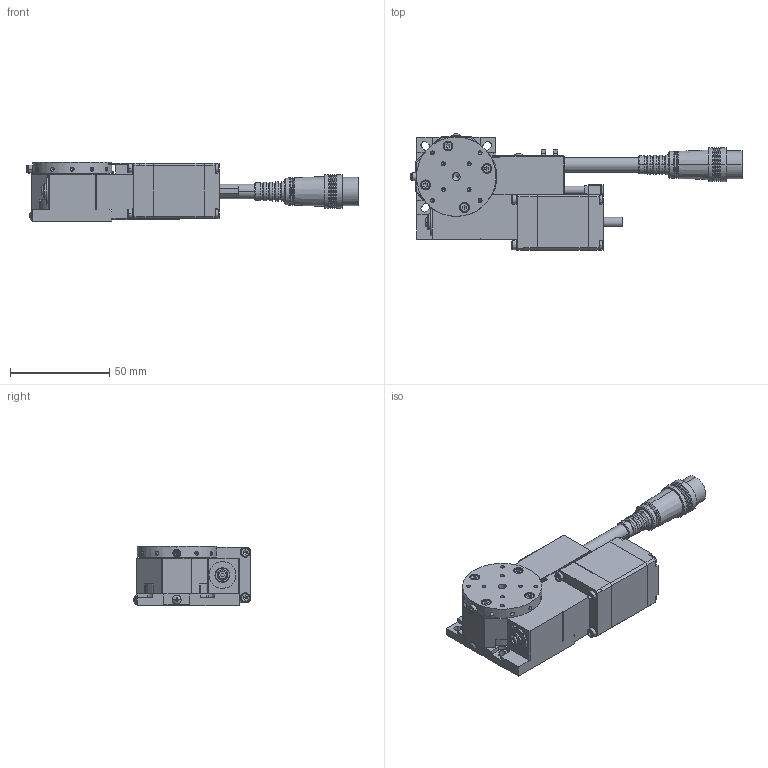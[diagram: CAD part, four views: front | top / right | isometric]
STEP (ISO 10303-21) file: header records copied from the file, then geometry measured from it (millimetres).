
FILE_DESCRIPTION (( 'STEP AP203' ), '1' );
FILE_NAME ('RA04A-W01.STEP', '2019-02-20T05:26:23', ( '' ), ( '' ), 'SwSTEP 2.0', 'SolidWorks 2018', '' );
FILE_SCHEMA (( 'CONFIG_CONTROL_DESIGN' ));
Length unit declared in the file: millimetre
Products named in the file (6): table; RA04A-W01; base; base-Part-1; base-Part-2; base-Part-3
Assembly tree (5 placements, depth 3):
  RA04A-W01
    base
      base-Part-1
      base-Part-2
      base-Part-3
    table
Bounding box: 167.28 x 58.68 x 30 mm (x, y, z)
Volume: 96265.3 mm3; surface area: 41138.6 mm2
Topology: 4 solids, 4 shells, 1615 faces, 3936 edges, 2390 vertices
Faces by surface type: plane 936, cylinder 365, cone 205, torus 78, sphere 18, bspline 13
Entity records: 48097 total; most frequent: CARTESIAN_POINT 9264, DIRECTION 8237, ORIENTED_EDGE 7718, EDGE_CURVE 3859, AXIS2_PLACEMENT_3D 2894, VECTOR 2449, LINE 2449, VERTEX_POINT 2389
